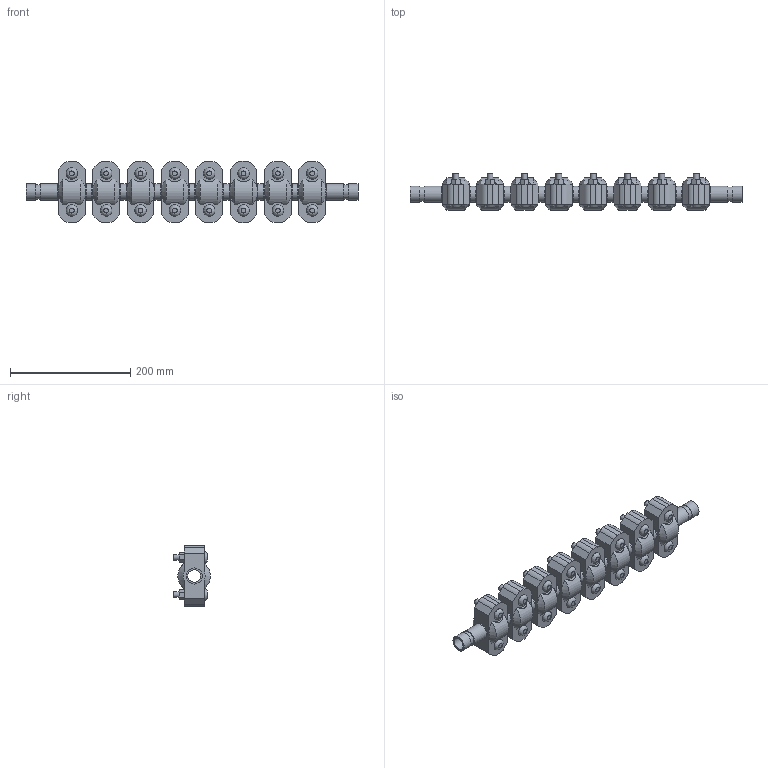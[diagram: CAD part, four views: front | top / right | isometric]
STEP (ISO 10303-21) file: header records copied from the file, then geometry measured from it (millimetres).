
FILE_DESCRIPTION(/* description */ ('VIC EXPANSION JOINT 8 COUPLINGS COMPRESSED STYLE 155 (OGS)','CAx-IF Rec.Pracs.---Representation and Presentation of Product Manufacturing Information (PMI)---4.0---2014-10-13'),/* implementation_level */ '2;1');
FILE_NAME(/* name */ 'C:\Users\kkamble\AppData\Roaming\Autodesk\ApplicationPlugins\Victaulic.Temp\A709\Victaulic_IPS_Expansion Joint_Compressed_8 Couplings_Style 155 (OGS)_0.75 (20).stp',/* time_stamp */ '2021-06-27T00:35:33+02:00',/* author */ ('kkamble'),/* organization */ ('Victaulic'),/* preprocessor_version */ 'ST-DEVELOPER v17.2',/* originating_system */ 'Autodesk Inventor 2019',/* authorisation */ '');
FILE_SCHEMA (('AP242_MANAGED_MODEL_BASED_3D_ENGINEERING_MIM_LF { 1 0 10303 442 1 1 4 }'));
Length unit declared in the file: inch
Products named in the file (4): 155-0.75; Nipple-0.75; Nipple-0.75_1; 077-0.75
Assembly tree (17 placements, depth 2):
  155-0.75
    Nipple-0.75  x2
    Nipple-0.75_1  x7
    077-0.75  x8
Bounding box: 552.45 x 61.1 x 101.6 mm (x, y, z)
Volume: 1229015.3 mm3; surface area: 306318.1 mm2
Topology: 17 solids, 33 shells, 564 faces, 1382 edges, 968 vertices
Faces by surface type: plane 326, cylinder 190, cone 32, bspline 16
Full cylindrical faces by diameter (mm): 9.525 x32, 11.43 x16, 20.93 x9, 23.825 x18, 26.67 x35
Entity records: 2955 total; most frequent: CARTESIAN_POINT 579, DIRECTION 479, ORIENTED_EDGE 398, EDGE_CURVE 199, AXIS2_PLACEMENT_3D 192, VERTEX_POINT 142, EDGE_LOOP 105, LINE 95
